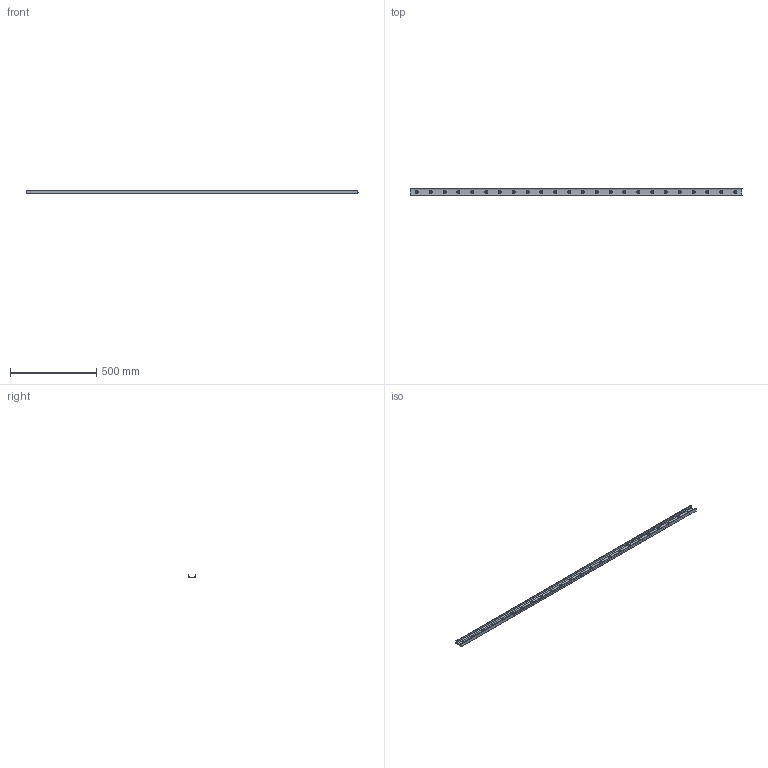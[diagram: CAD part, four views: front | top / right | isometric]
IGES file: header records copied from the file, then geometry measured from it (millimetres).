
Start section: SolidWorks IGES file using analytic representation for surfaces
Global section: file name: C:\Users\IanO\Desktop\43\L1943.ULV43_v2_20180121_IGES\L1943.ULV43-1920.igs; native system: SolidWorks 2017; preprocessor: SolidWorks 2017; author: IanO; date: 190121.090204; units: millimetre
Bounding box: 1920 x 43 x 21 mm (x, y, z)
Surface area: 298132 mm2 (no closed solid volume)
Topology: 0 solids, 0 shells, 122 faces, 2214 edges, 2214 vertices
Faces by surface type: revolution 109, bspline 13
